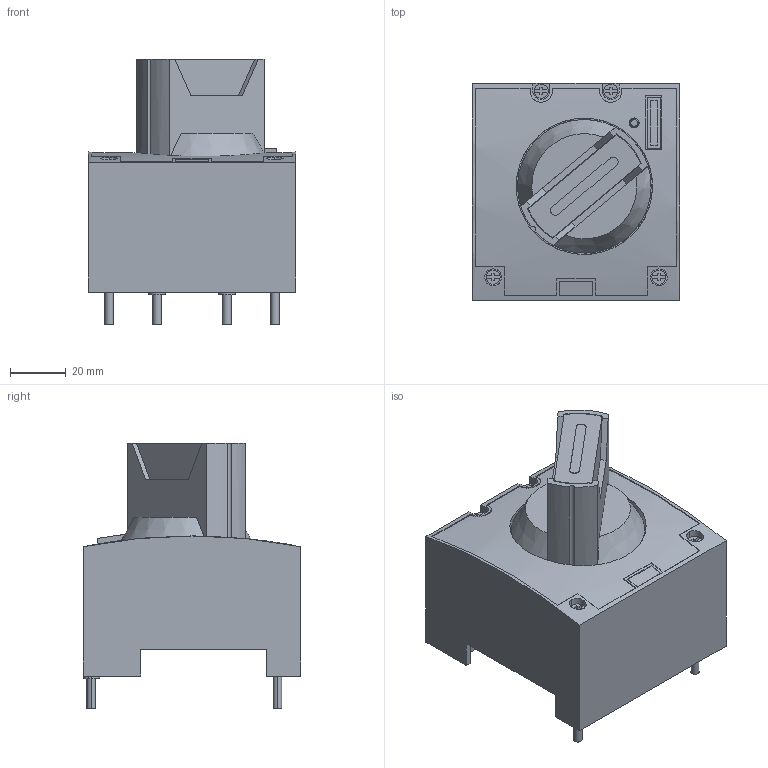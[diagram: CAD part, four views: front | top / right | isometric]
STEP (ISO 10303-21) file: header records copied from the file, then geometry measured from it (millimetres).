
FILE_DESCRIPTION((''),'2;1');
FILE_NAME('1655037385136_ASM','2022-06-12T18:06:53',('SESA621925'),('Schneider-Electric'),'CREO PARAMETRIC BY PTC INC, 2019471','CREO PARAMETRIC BY PTC INC, 2019471','');
FILE_SCHEMA(('AP242_MANAGED_MODEL_BASED_3D_ENGINEERING_MIM_LF { 1 0 10303 442 1 1 4 }'));
Length unit declared in the file: millimetre
Products named in the file (6): EMPTYNODE_1655037385361_ASM; DIRECT-ROTARY-HANDLE-125; DIRECT-ROTARY-HANDLE-125-3D_ASM; ROTARY-KNOB1; ROTARY-KNOB1-3D_ASM; 1655037385136_ASM
Assembly tree (5 placements, depth 3):
  1655037385136_ASM
    EMPTYNODE_1655037385361_ASM
    DIRECT-ROTARY-HANDLE-125-3D_ASM
      DIRECT-ROTARY-HANDLE-125
    ROTARY-KNOB1-3D_ASM
      ROTARY-KNOB1
Bounding box: 74.5 x 78 x 95.3 mm (x, y, z)
Volume: 235175.9 mm3; surface area: 60402.5 mm2
Topology: 2 solids, 2 shells, 570 faces, 1531 edges, 1031 vertices
Faces by surface type: plane 446, cylinder 120, cone 4
Entity records: 25456 total; most frequent: CARTESIAN_POINT 3463, ORIENTED_EDGE 3040, DIRECTION 2986, PRESENTATION_STYLE_ASSIGNMENT 1711, STYLED_ITEM 1540, CURVE_STYLE 1535, EDGE_CURVE 1520, VECTOR 1202
